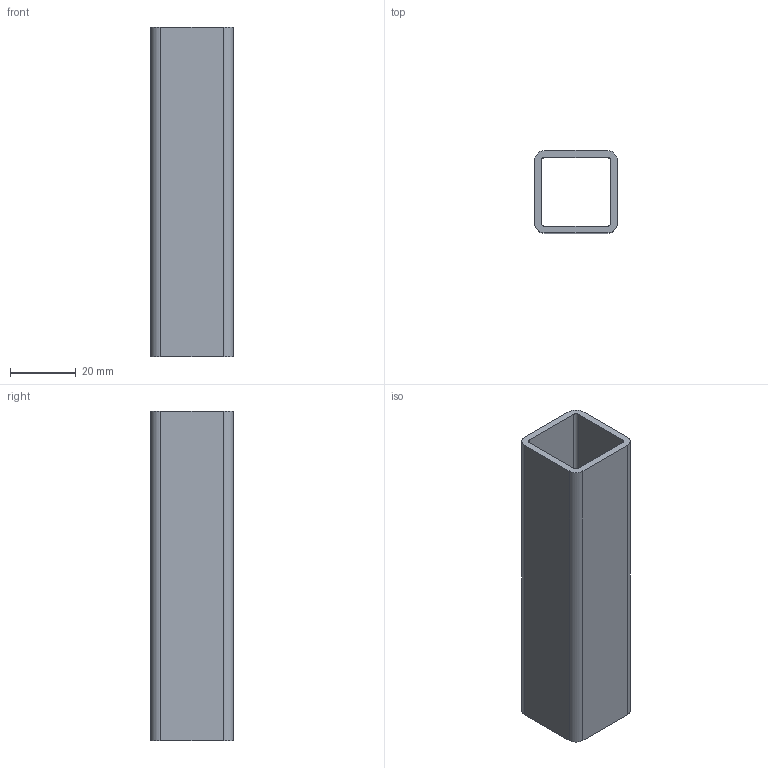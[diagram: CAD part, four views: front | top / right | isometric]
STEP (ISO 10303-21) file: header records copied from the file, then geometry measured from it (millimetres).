
FILE_DESCRIPTION (( 'STEP AP203' ), '1' );
FILE_NAME ('013.025.001.STEP', '2020-07-22T08:28:05', ( '' ), ( '' ), 'SwSTEP 2.0', 'SolidWorks 2018', '' );
FILE_SCHEMA (( 'CONFIG_CONTROL_DESIGN' ));
Length unit declared in the file: millimetre
Products named in the file (1): 013.025.001
Bounding box: 25 x 25 x 100 mm (x, y, z)
Volume: 17713.3 mm3; surface area: 18067.5 mm2
Topology: 1 solids, 1 shells, 18 faces, 48 edges, 32 vertices
Faces by surface type: plane 10, cylinder 8
Entity records: 649 total; most frequent: DIRECTION 102, CARTESIAN_POINT 99, ORIENTED_EDGE 96, EDGE_CURVE 48, AXIS2_PLACEMENT_3D 35, LINE 32, VERTEX_POINT 32, VECTOR 32
